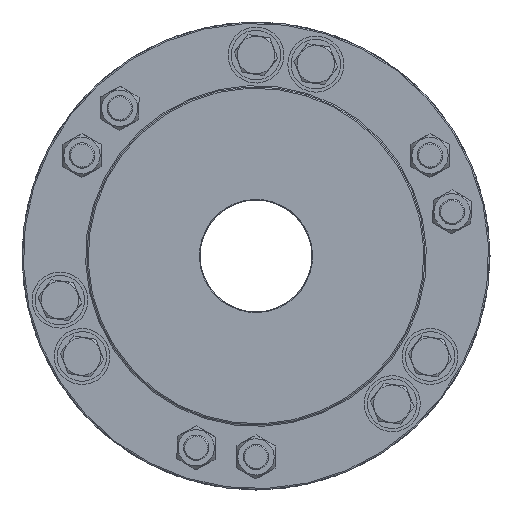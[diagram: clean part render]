
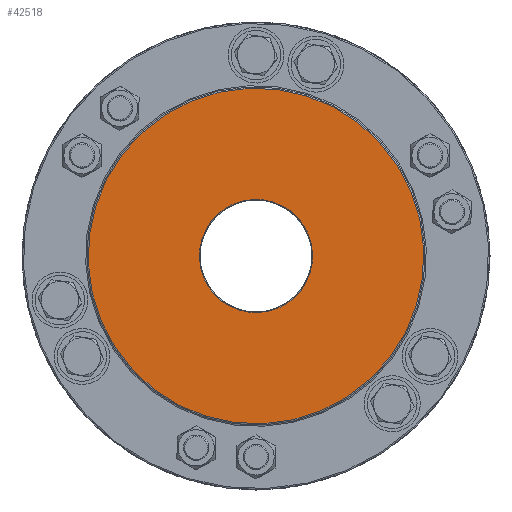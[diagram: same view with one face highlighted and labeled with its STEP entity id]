
A CAD part, left-side view. The second image highlights one B-rep face of the part: STEP entity #42518.
In plain terms, the highlighted planar face has unit normal (-1, 0, 0).
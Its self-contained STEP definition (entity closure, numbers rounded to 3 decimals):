
#280 = CARTESIAN_POINT ( 'NONE',  ( -315., 126.971, 39.589 ) ) ;
#446 = PLANE ( 'NONE',  #6478 ) ;
#623 = DIRECTION ( 'NONE',  ( 0., -0.298, 0.955 ) ) ;
#1724 = VERTEX_POINT ( 'NONE', #43391 ) ;
#5732 = CARTESIAN_POINT ( 'NONE',  ( -315., -13.246, 42.483 ) ) ;
#6478 = AXIS2_PLACEMENT_3D ( 'NONE', #280, #28526, #623 ) ;
#6659 = CARTESIAN_POINT ( 'NONE',  ( -315., 0., 0. ) ) ;
#7033 = AXIS2_PLACEMENT_3D ( 'NONE', #6659, #27112, #18212 ) ;
#7766 = EDGE_CURVE ( 'Defeatured_0_1475+Defeatured_0_1589+Defeatured_0_1589+Defeatured_0_1589', #48467, #1724, #27835, .T. ) ;
#13675 = FACE_OUTER_BOUND ( 'NONE', #34922, .T. ) ;
#15029 = CARTESIAN_POINT ( 'NONE',  ( -315., 0., 0. ) ) ;
#18212 = DIRECTION ( 'NONE',  ( 0., -0.298, 0.955 ) ) ;
#22167 = EDGE_CURVE ( 'Defeatured_0_1475+Defeatured_0_1589+Defeatured_0_1589+Defeatured_0_1589', #1724, #48467, #41833, .T. ) ;
#22817 = CARTESIAN_POINT ( 'NONE',  ( -315., 0., 0. ) ) ;
#24583 = AXIS2_PLACEMENT_3D ( 'NONE', #22817, #51504, #27089 ) ;
#25996 = DIRECTION ( 'NONE',  ( 0., -0.298, 0.955 ) ) ;
#26599 = VERTEX_POINT ( 'NONE', #47901 ) ;
#26778 = EDGE_LOOP ( 'NONE', ( #45655, #38337 ) ) ;
#27028 = ORIENTED_EDGE ( 'NONE', *, *, #33916, .T. ) ;
#27089 = DIRECTION ( 'NONE',  ( 0., -0.298, 0.955 ) ) ;
#27112 = DIRECTION ( 'NONE',  ( 1., 0., 0. ) ) ;
#27835 = CIRCLE ( 'NONE', #42291, 44.5 ) ;
#28275 = CIRCLE ( 'NONE', #24583, 132. ) ;
#28526 = DIRECTION ( 'NONE',  ( -1., 0., 0. ) ) ;
#29926 = CARTESIAN_POINT ( 'NONE',  ( -315., 0., 0. ) ) ;
#30657 = VERTEX_POINT ( 'NONE', #48674 ) ;
#31134 = AXIS2_PLACEMENT_3D ( 'NONE', #29926, #34023, #25996 ) ;
#33916 = EDGE_CURVE ( 'Defeatured_0_1475+Defeatured_0_1487+Defeatured_0_1487+Defeatured_0_1487', #26599, #30657, #28275, .T. ) ;
#34023 = DIRECTION ( 'NONE',  ( -1., 0., 0. ) ) ;
#34922 = EDGE_LOOP ( 'NONE', ( #45683, #27028 ) ) ;
#36086 = EDGE_CURVE ( 'Defeatured_0_1475+Defeatured_0_1487+Defeatured_0_1487+Defeatured_0_1487', #30657, #26599, #52336, .T. ) ;
#38337 = ORIENTED_EDGE ( 'NONE', *, *, #22167, .T. ) ;
#41079 = FACE_BOUND ( 'NONE', #26778, .T. ) ;
#41833 = CIRCLE ( 'NONE', #7033, 44.5 ) ;
#42291 = AXIS2_PLACEMENT_3D ( 'NONE', #15029, #47447, #47962 ) ;
#42518 = ADVANCED_FACE ( 'Defeatured_0_1475', ( #41079, #13675 ), #446, .T. ) ;
#43391 = CARTESIAN_POINT ( 'NONE',  ( -315., 13.246, -42.483 ) ) ;
#45655 = ORIENTED_EDGE ( 'NONE', *, *, #7766, .T. ) ;
#45683 = ORIENTED_EDGE ( 'NONE', *, *, #36086, .T. ) ;
#47447 = DIRECTION ( 'NONE',  ( 1., 0., 0. ) ) ;
#47901 = CARTESIAN_POINT ( 'NONE',  ( -315., 39.291, -126.017 ) ) ;
#47962 = DIRECTION ( 'NONE',  ( 0., -0.298, 0.955 ) ) ;
#48467 = VERTEX_POINT ( 'NONE', #5732 ) ;
#48674 = CARTESIAN_POINT ( 'NONE',  ( -315., -39.291, 126.017 ) ) ;
#51504 = DIRECTION ( 'NONE',  ( -1., 0., 0. ) ) ;
#52336 = CIRCLE ( 'NONE', #31134, 132. ) ;
